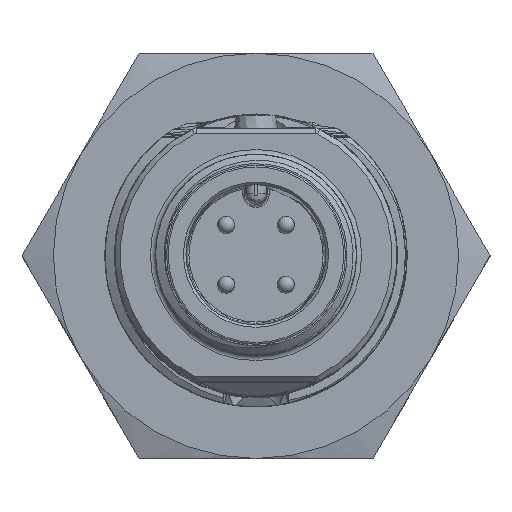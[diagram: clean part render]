
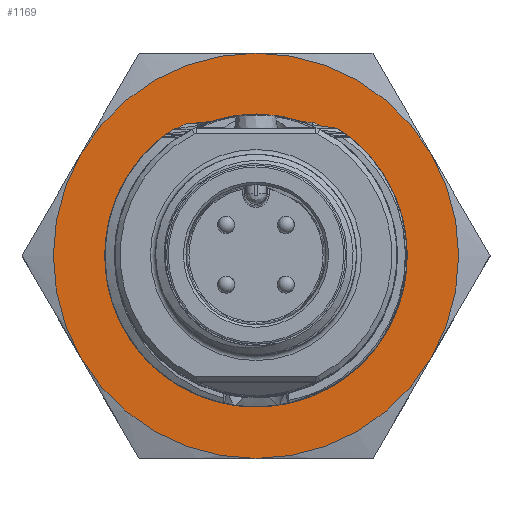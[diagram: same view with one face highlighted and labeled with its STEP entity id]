
A CAD part, top view. The second image highlights one B-rep face of the part: STEP entity #1169.
In plain terms, the highlighted planar face has unit normal (0, 0, 1).
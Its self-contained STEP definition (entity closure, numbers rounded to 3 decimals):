
#772=PLANE('',#6168);
#1169=ADVANCED_FACE('',(#1620,#1621),#772,.T.);
#1620=FACE_BOUND('',#1721,.T.);
#1621=FACE_BOUND('',#1722,.T.);
#1721=EDGE_LOOP('',(#2872,#2873,#2874,#2875,#2876,#2877,#2878,#2879,#2880,
#2881));
#1722=EDGE_LOOP('',(#2882,#2883,#2884,#2885,#2886,#2887));
#2119=LINE('',#8205,#2352);
#2120=LINE('',#8244,#2353);
#2352=VECTOR('',#6730,1.);
#2353=VECTOR('',#6735,1.);
#2575=CIRCLE('',#6141,7.825);
#2586=CIRCLE('',#6160,8.39);
#2587=CIRCLE('',#6161,8.95);
#2588=CIRCLE('',#6162,12.);
#2589=CIRCLE('',#6163,12.);
#2590=CIRCLE('',#6164,12.);
#2591=CIRCLE('',#6165,12.);
#2592=CIRCLE('',#6166,12.);
#2593=CIRCLE('',#6167,12.);
#2872=ORIENTED_EDGE('',*,*,#5035,.F.);
#2873=ORIENTED_EDGE('',*,*,#5036,.F.);
#2874=ORIENTED_EDGE('',*,*,#5037,.T.);
#2875=ORIENTED_EDGE('',*,*,#5038,.F.);
#2876=ORIENTED_EDGE('',*,*,#5039,.T.);
#2877=ORIENTED_EDGE('',*,*,#5040,.T.);
#2878=ORIENTED_EDGE('',*,*,#5041,.T.);
#2879=ORIENTED_EDGE('',*,*,#5042,.F.);
#2880=ORIENTED_EDGE('',*,*,#5043,.F.);
#2881=ORIENTED_EDGE('',*,*,#4984,.F.);
#2882=ORIENTED_EDGE('',*,*,#5044,.F.);
#2883=ORIENTED_EDGE('',*,*,#5045,.F.);
#2884=ORIENTED_EDGE('',*,*,#5046,.F.);
#2885=ORIENTED_EDGE('',*,*,#5047,.F.);
#2886=ORIENTED_EDGE('',*,*,#5048,.F.);
#2887=ORIENTED_EDGE('',*,*,#5049,.F.);
#4459=VERTEX_POINT('',#7999);
#4460=VERTEX_POINT('',#8001);
#4471=VERTEX_POINT('',#8051);
#4477=VERTEX_POINT('',#8076);
#4481=VERTEX_POINT('',#8098);
#4485=VERTEX_POINT('',#8120);
#4489=VERTEX_POINT('',#8142);
#4492=VERTEX_POINT('',#8163);
#4498=VERTEX_POINT('',#8206);
#4499=VERTEX_POINT('',#8214);
#4500=VERTEX_POINT('',#8219);
#4501=VERTEX_POINT('',#8221);
#4502=VERTEX_POINT('',#8228);
#4503=VERTEX_POINT('',#8230);
#4504=VERTEX_POINT('',#8235);
#4505=VERTEX_POINT('',#8243);
#4984=EDGE_CURVE('',#4459,#4460,#2575,.T.);
#5035=EDGE_CURVE('',#4498,#4459,#2119,.T.);
#5036=EDGE_CURVE('',#4499,#4498,#5836,.T.);
#5037=EDGE_CURVE('',#4499,#4500,#5837,.T.);
#5038=EDGE_CURVE('',#4501,#4500,#2586,.T.);
#5039=EDGE_CURVE('',#4501,#4502,#5838,.T.);
#5040=EDGE_CURVE('',#4502,#4503,#2587,.T.);
#5041=EDGE_CURVE('',#4503,#4504,#5839,.T.);
#5042=EDGE_CURVE('',#4505,#4504,#5840,.T.);
#5043=EDGE_CURVE('',#4460,#4505,#2120,.T.);
#5044=EDGE_CURVE('',#4489,#4492,#2588,.T.);
#5045=EDGE_CURVE('',#4485,#4489,#2589,.T.);
#5046=EDGE_CURVE('',#4481,#4485,#2590,.T.);
#5047=EDGE_CURVE('',#4477,#4481,#2591,.T.);
#5048=EDGE_CURVE('',#4471,#4477,#2592,.T.);
#5049=EDGE_CURVE('',#4492,#4471,#2593,.T.);
#5836=B_SPLINE_CURVE_WITH_KNOTS('',3,(#8207,#8208,#8209,#8210,#8211,#8212,
#8213),.UNSPECIFIED.,.F.,.F.,(4,3,4),(0.,0.263,1.),
 .UNSPECIFIED.);
#5837=B_SPLINE_CURVE_WITH_KNOTS('',3,(#8215,#8216,#8217,#8218),
 .UNSPECIFIED.,.F.,.F.,(4,4),(0.,1.),.UNSPECIFIED.);
#5838=B_SPLINE_CURVE_WITH_KNOTS('',3,(#8222,#8223,#8224,#8225,#8226,#8227),
 .UNSPECIFIED.,.F.,.F.,(4,2,4),(0.,0.5,1.),.UNSPECIFIED.);
#5839=B_SPLINE_CURVE_WITH_KNOTS('',3,(#8231,#8232,#8233,#8234),
 .UNSPECIFIED.,.F.,.F.,(4,4),(0.,1.),.UNSPECIFIED.);
#5840=B_SPLINE_CURVE_WITH_KNOTS('',3,(#8236,#8237,#8238,#8239,#8240,#8241,
#8242),.UNSPECIFIED.,.F.,.F.,(4,3,4),(0.,0.558,1.),
 .UNSPECIFIED.);
#6141=AXIS2_PLACEMENT_3D('',#8000,#6682,#6683);
#6160=AXIS2_PLACEMENT_3D('',#8220,#6731,#6732);
#6161=AXIS2_PLACEMENT_3D('',#8229,#6733,#6734);
#6162=AXIS2_PLACEMENT_3D('',#8245,#6736,#6737);
#6163=AXIS2_PLACEMENT_3D('',#8246,#6738,#6739);
#6164=AXIS2_PLACEMENT_3D('',#8247,#6740,#6741);
#6165=AXIS2_PLACEMENT_3D('',#8248,#6742,#6743);
#6166=AXIS2_PLACEMENT_3D('',#8249,#6744,#6745);
#6167=AXIS2_PLACEMENT_3D('',#8250,#6746,#6747);
#6168=AXIS2_PLACEMENT_3D('',#8251,#6748,#6749);
#6682=DIRECTION('',(0.,0.,1.));
#6683=DIRECTION('',(1.,0.,0.));
#6730=DIRECTION('',(0.,-1.,0.));
#6731=DIRECTION('',(0.,0.,1.));
#6732=DIRECTION('',(1.,0.,0.));
#6733=DIRECTION('',(0.,0.,-1.));
#6734=DIRECTION('',(1.,0.,0.));
#6735=DIRECTION('',(0.,1.,0.));
#6736=DIRECTION('',(0.,0.,-1.));
#6737=DIRECTION('',(1.,0.,0.));
#6738=DIRECTION('',(0.,0.,-1.));
#6739=DIRECTION('',(1.,0.,0.));
#6740=DIRECTION('',(0.,0.,-1.));
#6741=DIRECTION('',(1.,0.,0.));
#6742=DIRECTION('',(0.,0.,-1.));
#6743=DIRECTION('',(-1.,0.,0.));
#6744=DIRECTION('',(0.,0.,-1.));
#6745=DIRECTION('',(1.,0.,0.));
#6746=DIRECTION('',(0.,0.,-1.));
#6747=DIRECTION('',(1.,0.,0.));
#6748=DIRECTION('',(0.,0.,1.));
#6749=DIRECTION('',(1.,0.,0.));
#7999=CARTESIAN_POINT('',(1.265,7.722,19.5));
#8000=CARTESIAN_POINT('',(0.,0.,19.5));
#8001=CARTESIAN_POINT('',(-1.265,7.722,19.5));
#8051=CARTESIAN_POINT('',(-10.392,-6.,19.5));
#8076=CARTESIAN_POINT('',(-10.392,6.,19.5));
#8098=CARTESIAN_POINT('',(0.,12.,19.5));
#8120=CARTESIAN_POINT('',(10.392,6.,19.5));
#8142=CARTESIAN_POINT('',(10.392,-6.,19.5));
#8163=CARTESIAN_POINT('',(0.,-12.,19.5));
#8205=CARTESIAN_POINT('',(1.265,10.108,19.5));
#8206=CARTESIAN_POINT('',(1.265,8.072,19.5));
#8207=CARTESIAN_POINT('',(3.49,7.873,19.5));
#8208=CARTESIAN_POINT('',(3.295,7.891,19.5));
#8209=CARTESIAN_POINT('',(3.1,7.911,19.5));
#8210=CARTESIAN_POINT('',(2.905,7.93,19.5));
#8211=CARTESIAN_POINT('',(2.359,7.983,19.5));
#8212=CARTESIAN_POINT('',(1.813,8.036,19.5));
#8213=CARTESIAN_POINT('',(1.265,8.072,19.5));
#8214=CARTESIAN_POINT('',(3.49,7.873,19.5));
#8215=CARTESIAN_POINT('',(3.49,7.873,19.5));
#8216=CARTESIAN_POINT('',(5.538,6.885,19.5));
#8217=CARTESIAN_POINT('',(7.169,5.046,19.5));
#8218=CARTESIAN_POINT('',(7.881,2.878,19.5));
#8219=CARTESIAN_POINT('',(7.881,2.878,19.5));
#8220=CARTESIAN_POINT('',(0.,0.,19.5));
#8221=CARTESIAN_POINT('',(3.563,-7.596,19.5));
#8222=CARTESIAN_POINT('',(3.563,-7.596,19.5));
#8223=CARTESIAN_POINT('',(0.935,-8.936,19.5));
#8224=CARTESIAN_POINT('',(-2.37,-8.752,19.5));
#8225=CARTESIAN_POINT('',(-7.329,-5.633,19.5));
#8226=CARTESIAN_POINT('',(-8.922,-2.76,19.5));
#8227=CARTESIAN_POINT('',(-8.948,0.197,19.5));
#8228=CARTESIAN_POINT('',(-8.948,0.197,19.5));
#8229=CARTESIAN_POINT('',(0.,0.,19.5));
#8230=CARTESIAN_POINT('',(-6.487,6.166,19.5));
#8231=CARTESIAN_POINT('',(-6.487,6.166,19.5));
#8232=CARTESIAN_POINT('',(-5.814,6.832,19.5));
#8233=CARTESIAN_POINT('',(-5.034,7.388,19.5));
#8234=CARTESIAN_POINT('',(-4.198,7.805,19.5));
#8235=CARTESIAN_POINT('',(-4.198,7.805,19.5));
#8236=CARTESIAN_POINT('',(-1.265,8.072,19.5));
#8237=CARTESIAN_POINT('',(-1.812,8.036,19.5));
#8238=CARTESIAN_POINT('',(-2.358,7.983,19.5));
#8239=CARTESIAN_POINT('',(-2.903,7.93,19.5));
#8240=CARTESIAN_POINT('',(-3.335,7.888,19.5));
#8241=CARTESIAN_POINT('',(-3.766,7.845,19.5));
#8242=CARTESIAN_POINT('',(-4.198,7.805,19.5));
#8243=CARTESIAN_POINT('',(-1.265,8.072,19.5));
#8244=CARTESIAN_POINT('',(-1.265,10.108,19.5));
#8245=CARTESIAN_POINT('',(0.,0.,19.5));
#8246=CARTESIAN_POINT('',(0.,0.,19.5));
#8247=CARTESIAN_POINT('',(0.,0.,19.5));
#8248=CARTESIAN_POINT('',(0.,0.,19.5));
#8249=CARTESIAN_POINT('',(0.,0.,19.5));
#8250=CARTESIAN_POINT('',(0.,0.,19.5));
#8251=CARTESIAN_POINT('',(0.,0.,19.5));
